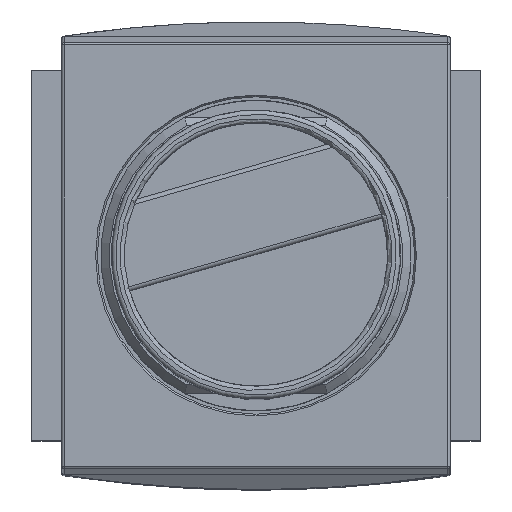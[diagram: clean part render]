
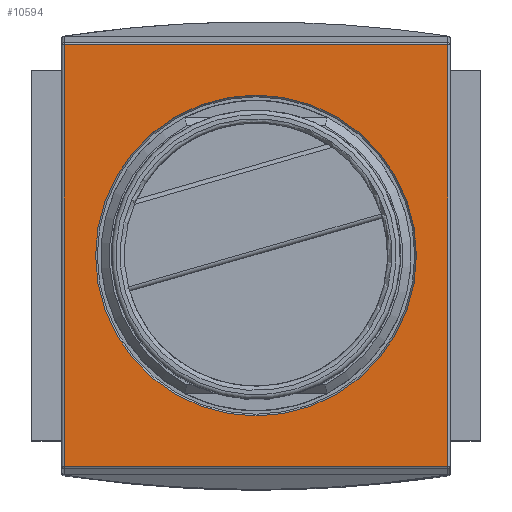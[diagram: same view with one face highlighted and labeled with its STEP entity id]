
A CAD part, top view. The second image highlights one B-rep face of the part: STEP entity #10594.
In plain terms, the highlighted planar face has unit normal (0, 0, 1).
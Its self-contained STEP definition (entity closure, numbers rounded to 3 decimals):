
#10388=CARTESIAN_POINT('',(-22.25,-24.458,34.0));
#10389=VERTEX_POINT('',#10388);
#10397=CARTESIAN_POINT('',(-22.25,24.431,34.0));
#10398=VERTEX_POINT('',#10397);
#10399=CARTESIAN_POINT('',(-22.25,-24.458,34.0));
#10400=DIRECTION('',(0.0,1.0,0.0));
#10401=VECTOR('',#10400,48.889);
#10402=LINE('',#10399,#10401);
#10403=EDGE_CURVE('',#10389,#10398,#10402,.T.);
#10541=CARTESIAN_POINT('',(22.25,24.431,34.0));
#10542=VERTEX_POINT('',#10541);
#10543=CARTESIAN_POINT('',(-22.25,24.431,34.0));
#10544=DIRECTION('',(1.0,0.0,0.0));
#10545=VECTOR('',#10544,44.5);
#10546=LINE('',#10543,#10545);
#10547=EDGE_CURVE('',#10398,#10542,#10546,.T.);
#10560=CARTESIAN_POINT('',(0.,0.,34.0));
#10561=DIRECTION('',(0.0,0.0,-1.0));
#10562=DIRECTION('',(-1.0,0.0,0.0));
#10563=AXIS2_PLACEMENT_3D('',#10560,#10561,#10562);
#10564=PLANE('',#10563);
#10565=ORIENTED_EDGE('',*,*,#10403,.F.);
#10566=CARTESIAN_POINT('',(22.25,-24.458,34.0));
#10567=VERTEX_POINT('',#10566);
#10568=CARTESIAN_POINT('',(22.25,-24.458,34.0));
#10569=DIRECTION('',(-1.0,0.0,0.0));
#10570=VECTOR('',#10569,44.5);
#10571=LINE('',#10568,#10570);
#10572=EDGE_CURVE('',#10567,#10389,#10571,.T.);
#10573=ORIENTED_EDGE('',*,*,#10572,.F.);
#10574=CARTESIAN_POINT('',(22.25,24.431,34.0));
#10575=DIRECTION('',(0.0,-1.0,0.0));
#10576=VECTOR('',#10575,48.889);
#10577=LINE('',#10574,#10576);
#10578=EDGE_CURVE('',#10542,#10567,#10577,.T.);
#10579=ORIENTED_EDGE('',*,*,#10578,.F.);
#10580=ORIENTED_EDGE('',*,*,#10547,.F.);
#10581=EDGE_LOOP('',(#10565,#10573,#10579,#10580));
#10582=FACE_OUTER_BOUND('',#10581,.T.);
#10583=CARTESIAN_POINT('',(0.,18.6,34.0));
#10584=VERTEX_POINT('',#10583);
#10585=CARTESIAN_POINT('',(0.,0.,34.0));
#10586=DIRECTION('',(0.0,0.0,-1.0));
#10587=DIRECTION('',(0.0,-1.0,0.0));
#10588=AXIS2_PLACEMENT_3D('',#10585,#10586,#10587);
#10589=CIRCLE('',#10588,18.6);
#10590=EDGE_CURVE('',#10584,#10584,#10589,.T.);
#10591=ORIENTED_EDGE('',*,*,#10590,.T.);
#10592=EDGE_LOOP('',(#10591));
#10593=FACE_BOUND('',#10592,.T.);
#10594=ADVANCED_FACE('',(#10582,#10593),#10564,.F.);
